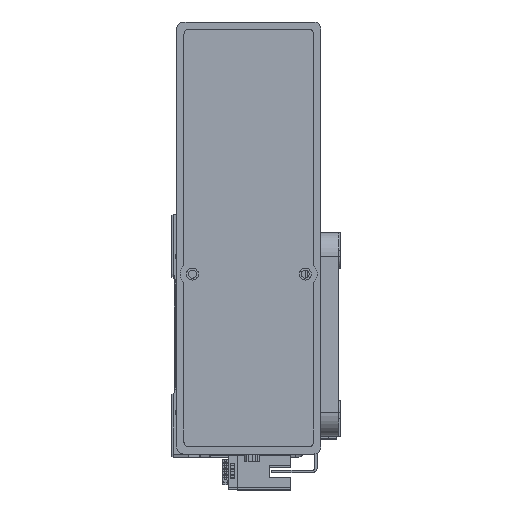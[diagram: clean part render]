
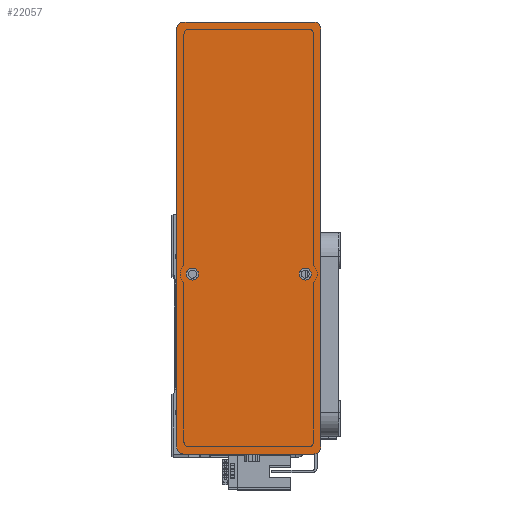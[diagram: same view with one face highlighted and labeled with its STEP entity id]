
A CAD part, top view. The second image highlights one B-rep face of the part: STEP entity #22057.
In plain terms, the highlighted planar face has unit normal (0, 0, 1) as drawn and (0, 0, -1) by its records, which use the part's own axes.
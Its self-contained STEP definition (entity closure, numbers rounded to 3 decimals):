
#1114 = EDGE_CURVE ( 'NONE', #11923, #13669, #34428, .T. ) ;
#1403 = CARTESIAN_POINT ( 'NONE',  ( 87., 30., 0. ) ) ;
#1446 = CARTESIAN_POINT ( 'NONE',  ( 0., 0., 0. ) ) ;
#2592 = VERTEX_POINT ( 'NONE', #13111 ) ;
#2676 = VECTOR ( 'NONE', #50454, 1000. ) ;
#2733 = CARTESIAN_POINT ( 'NONE',  ( 90., 30., 0. ) ) ;
#4784 = DIRECTION ( 'NONE',  ( 0., 0., -1. ) ) ;
#5153 = CIRCLE ( 'NONE', #35115, 3. ) ;
#5620 = CARTESIAN_POINT ( 'NONE',  ( -15., -23.5, 0. ) ) ;
#6156 = VERTEX_POINT ( 'NONE', #39097 ) ;
#6196 = DIRECTION ( 'NONE',  ( 0., 0., -1. ) ) ;
#6301 = LINE ( 'NONE', #22939, #30597 ) ;
#7757 = EDGE_CURVE ( 'NONE', #13669, #11923, #12574, .T. ) ;
#8105 = VERTEX_POINT ( 'NONE', #47768 ) ;
#8612 = VERTEX_POINT ( 'NONE', #42949 ) ;
#8854 = AXIS2_PLACEMENT_3D ( 'NONE', #5620, #37586, #10181 ) ;
#10121 = VERTEX_POINT ( 'NONE', #29284 ) ;
#10181 = DIRECTION ( 'NONE',  ( -1., 0., 0. ) ) ;
#10595 = DIRECTION ( 'NONE',  ( 1., 0., 0. ) ) ;
#11454 = DIRECTION ( 'NONE',  ( -1., 0., 0. ) ) ;
#11628 = DIRECTION ( 'NONE',  ( 0., 0., -1. ) ) ;
#11865 = AXIS2_PLACEMENT_3D ( 'NONE', #53614, #26289, #58219 ) ;
#11923 = VERTEX_POINT ( 'NONE', #39331 ) ;
#12453 = EDGE_CURVE ( 'NONE', #57964, #2592, #35587, .T. ) ;
#12569 = AXIS2_PLACEMENT_3D ( 'NONE', #45603, #18261, #50164 ) ;
#12574 = CIRCLE ( 'NONE', #54317, 2.5 ) ;
#12737 = CARTESIAN_POINT ( 'NONE',  ( 90., -30., 0. ) ) ;
#12822 = LINE ( 'NONE', #12737, #38601 ) ;
#13111 = CARTESIAN_POINT ( 'NONE',  ( -87., 30., 0. ) ) ;
#13669 = VERTEX_POINT ( 'NONE', #32642 ) ;
#13923 = CARTESIAN_POINT ( 'NONE',  ( -90., -30., 0. ) ) ;
#14463 = EDGE_LOOP ( 'NONE', ( #54015, #42144, #42314, #26027, #32211, #52996, #16636, #17695 ) ) ;
#15358 = CARTESIAN_POINT ( 'NONE',  ( 87., -30., 0. ) ) ;
#16087 = CARTESIAN_POINT ( 'NONE',  ( -87., -27., 0. ) ) ;
#16232 = EDGE_CURVE ( 'NONE', #20752, #6156, #6301, .T. ) ;
#16636 = ORIENTED_EDGE ( 'NONE', *, *, #12453, .F. ) ;
#17346 = DIRECTION ( 'NONE',  ( 1., 0., 0. ) ) ;
#17695 = ORIENTED_EDGE ( 'NONE', *, *, #34971, .T. ) ;
#18261 = DIRECTION ( 'NONE',  ( 0., 0., -1. ) ) ;
#18762 = EDGE_CURVE ( 'NONE', #33130, #2592, #22842, .T. ) ;
#19023 = VERTEX_POINT ( 'NONE', #15358 ) ;
#20582 = DIRECTION ( 'NONE',  ( 0., 0., -1. ) ) ;
#20658 = DIRECTION ( 'NONE',  ( 1., 0., 0. ) ) ;
#20752 = VERTEX_POINT ( 'NONE', #52025 ) ;
#22057 = ADVANCED_FACE ( 'NONE', ( #45078, #58594, #22209 ), #33369, .F. ) ;
#22209 = FACE_OUTER_BOUND ( 'NONE', #14463, .T. ) ;
#22842 = CIRCLE ( 'NONE', #38436, 3. ) ;
#22939 = CARTESIAN_POINT ( 'NONE',  ( 90., -30., 0. ) ) ;
#24380 = AXIS2_PLACEMENT_3D ( 'NONE', #1446, #37987, #10595 ) ;
#25272 = EDGE_CURVE ( 'NONE', #33130, #8105, #37669, .T. ) ;
#25304 = ORIENTED_EDGE ( 'NONE', *, *, #33922, .F. ) ;
#26024 = CIRCLE ( 'NONE', #12569, 2.5 ) ;
#26027 = ORIENTED_EDGE ( 'NONE', *, *, #35422, .T. ) ;
#26289 = DIRECTION ( 'NONE',  ( 0., 0., -1. ) ) ;
#27439 = CARTESIAN_POINT ( 'NONE',  ( -87., -30., 0. ) ) ;
#27958 = CARTESIAN_POINT ( 'NONE',  ( -90., 27., 0. ) ) ;
#28640 = AXIS2_PLACEMENT_3D ( 'NONE', #33533, #6196, #38169 ) ;
#29284 = CARTESIAN_POINT ( 'NONE',  ( -12.5, 23.5, 0. ) ) ;
#30597 = VECTOR ( 'NONE', #45692, 1000. ) ;
#30857 = EDGE_LOOP ( 'NONE', ( #53872, #52448 ) ) ;
#32139 = CARTESIAN_POINT ( 'NONE',  ( -87., 27., 0. ) ) ;
#32211 = ORIENTED_EDGE ( 'NONE', *, *, #25272, .F. ) ;
#32479 = CIRCLE ( 'NONE', #28640, 2.5 ) ;
#32642 = CARTESIAN_POINT ( 'NONE',  ( -12.5, -23.5, 0. ) ) ;
#33130 = VERTEX_POINT ( 'NONE', #27958 ) ;
#33369 = PLANE ( 'NONE',  #24380 ) ;
#33533 = CARTESIAN_POINT ( 'NONE',  ( -15., 23.5, 0. ) ) ;
#33777 = ORIENTED_EDGE ( 'NONE', *, *, #42485, .F. ) ;
#33922 = EDGE_CURVE ( 'NONE', #8612, #10121, #26024, .T. ) ;
#34164 = VECTOR ( 'NONE', #11454, 1000. ) ;
#34428 = CIRCLE ( 'NONE', #8854, 2.5 ) ;
#34971 = EDGE_CURVE ( 'NONE', #57964, #6156, #40131, .T. ) ;
#35115 = AXIS2_PLACEMENT_3D ( 'NONE', #47925, #20582, #52475 ) ;
#35422 = EDGE_CURVE ( 'NONE', #51144, #8105, #44290, .T. ) ;
#35587 = LINE ( 'NONE', #2733, #34164 ) ;
#36744 = DIRECTION ( 'NONE',  ( 1., 0., 0. ) ) ;
#37586 = DIRECTION ( 'NONE',  ( 0., 0., -1. ) ) ;
#37669 = LINE ( 'NONE', #13923, #2676 ) ;
#37987 = DIRECTION ( 'NONE',  ( 0., 0., 1. ) ) ;
#38169 = DIRECTION ( 'NONE',  ( -1., 0., 0. ) ) ;
#38436 = AXIS2_PLACEMENT_3D ( 'NONE', #32139, #4784, #36744 ) ;
#38601 = VECTOR ( 'NONE', #17346, 1000. ) ;
#39035 = CARTESIAN_POINT ( 'NONE',  ( -15., -23.5, 0. ) ) ;
#39097 = CARTESIAN_POINT ( 'NONE',  ( 90., 27., 0. ) ) ;
#39331 = CARTESIAN_POINT ( 'NONE',  ( -17.5, -23.5, 0. ) ) ;
#40131 = CIRCLE ( 'NONE', #11865, 3. ) ;
#42144 = ORIENTED_EDGE ( 'NONE', *, *, #45929, .T. ) ;
#42314 = ORIENTED_EDGE ( 'NONE', *, *, #52224, .F. ) ;
#42485 = EDGE_CURVE ( 'NONE', #10121, #8612, #32479, .T. ) ;
#42949 = CARTESIAN_POINT ( 'NONE',  ( -17.5, 23.5, 0. ) ) ;
#43596 = DIRECTION ( 'NONE',  ( -1., 0., 0. ) ) ;
#44290 = CIRCLE ( 'NONE', #52416, 3. ) ;
#45078 = FACE_BOUND ( 'NONE', #52187, .T. ) ;
#45603 = CARTESIAN_POINT ( 'NONE',  ( -15., 23.5, 0. ) ) ;
#45692 = DIRECTION ( 'NONE',  ( 0., 1., 0. ) ) ;
#45929 = EDGE_CURVE ( 'NONE', #20752, #19023, #5153, .T. ) ;
#47768 = CARTESIAN_POINT ( 'NONE',  ( -90., -27., 0. ) ) ;
#47925 = CARTESIAN_POINT ( 'NONE',  ( 87., -27., 0. ) ) ;
#48002 = DIRECTION ( 'NONE',  ( 0., 0., -1. ) ) ;
#50164 = DIRECTION ( 'NONE',  ( -1., 0., 0. ) ) ;
#50454 = DIRECTION ( 'NONE',  ( 0., -1., 0. ) ) ;
#51144 = VERTEX_POINT ( 'NONE', #27439 ) ;
#52025 = CARTESIAN_POINT ( 'NONE',  ( 90., -27., 0. ) ) ;
#52187 = EDGE_LOOP ( 'NONE', ( #25304, #33777 ) ) ;
#52224 = EDGE_CURVE ( 'NONE', #51144, #19023, #12822, .T. ) ;
#52416 = AXIS2_PLACEMENT_3D ( 'NONE', #16087, #48002, #20658 ) ;
#52448 = ORIENTED_EDGE ( 'NONE', *, *, #7757, .F. ) ;
#52475 = DIRECTION ( 'NONE',  ( 1., 0., 0. ) ) ;
#52996 = ORIENTED_EDGE ( 'NONE', *, *, #18762, .T. ) ;
#53614 = CARTESIAN_POINT ( 'NONE',  ( 87., 27., 0. ) ) ;
#53872 = ORIENTED_EDGE ( 'NONE', *, *, #1114, .F. ) ;
#54015 = ORIENTED_EDGE ( 'NONE', *, *, #16232, .F. ) ;
#54317 = AXIS2_PLACEMENT_3D ( 'NONE', #39035, #11628, #43596 ) ;
#57964 = VERTEX_POINT ( 'NONE', #1403 ) ;
#58219 = DIRECTION ( 'NONE',  ( 1., 0., 0. ) ) ;
#58594 = FACE_BOUND ( 'NONE', #30857, .T. ) ;
